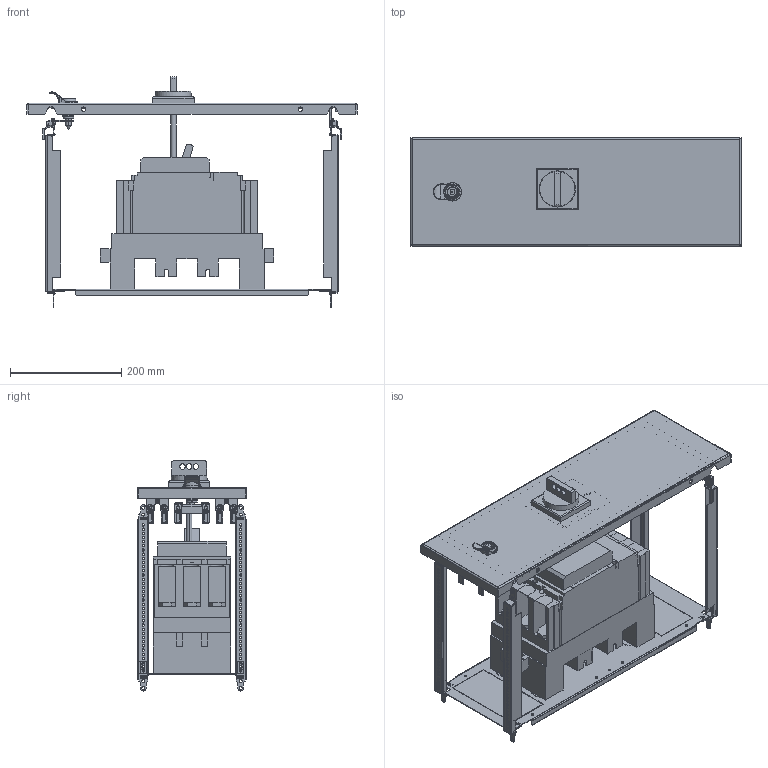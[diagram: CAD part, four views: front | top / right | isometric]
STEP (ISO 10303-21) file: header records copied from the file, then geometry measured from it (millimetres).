
FILE_DESCRIPTION(('CAx-IF Rec.Pracs.---Model Styling and Organization---1.2---2011-12-15','CAx-IF Rec.Pracs.---Geometric and Assembly Validation Properties---4.1---2014-06-16','CAx-IF Rec.Pracs.---PMI Polyline Presentation---2.0---2013-05-24'),'2;1');
FILE_NAME('R5PKEB7H62116 (P).stp','2021-07-29T02:13:38+03:00',(''),(''),'STEP Interface 4.4 by CT CoreTechnologie','3D_Evolution4.4 by CT CoreTechnologie','');
FILE_SCHEMA(('AUTOMOTIVE_DESIGN { 1 0 10303 214 1 1 1 1 }'));
Length unit declared in the file: millimetre
Products named in the file (1): R5PKEB7H62116 (P)
Bounding box: 594 x 195 x 413.9 mm (x, y, z)
Surface area: 1277599 mm2 (no closed solid volume)
Topology: 0 solids, 80 shells, 2831 faces, 7731 edges, 5074 vertices
Faces by surface type: plane 1320, cylinder 1084, bspline 427
Entity records: 102445 total; most frequent: CARTESIAN_POINT 29800, ORIENTED_EDGE 15358, DIRECTION 14706, EDGE_CURVE 7688, VERTEX_POINT 5076, AXIS2_PLACEMENT_3D 4960, VECTOR 4786, LINE 4786
